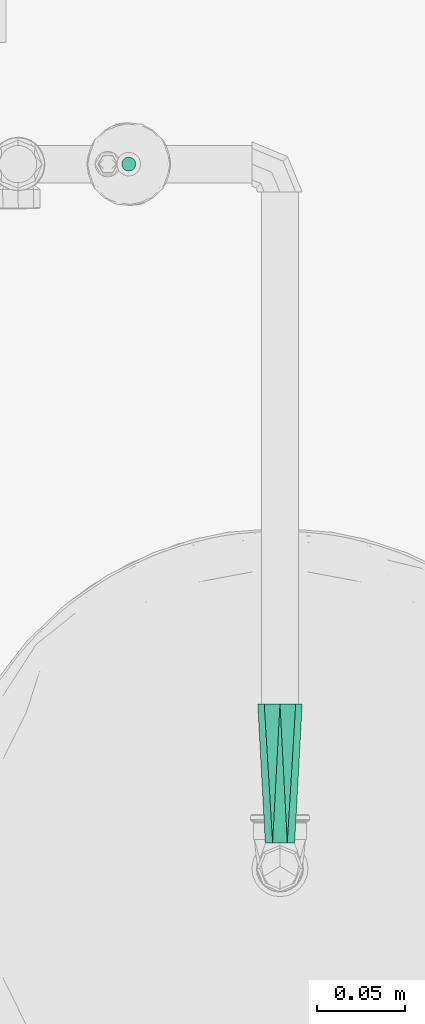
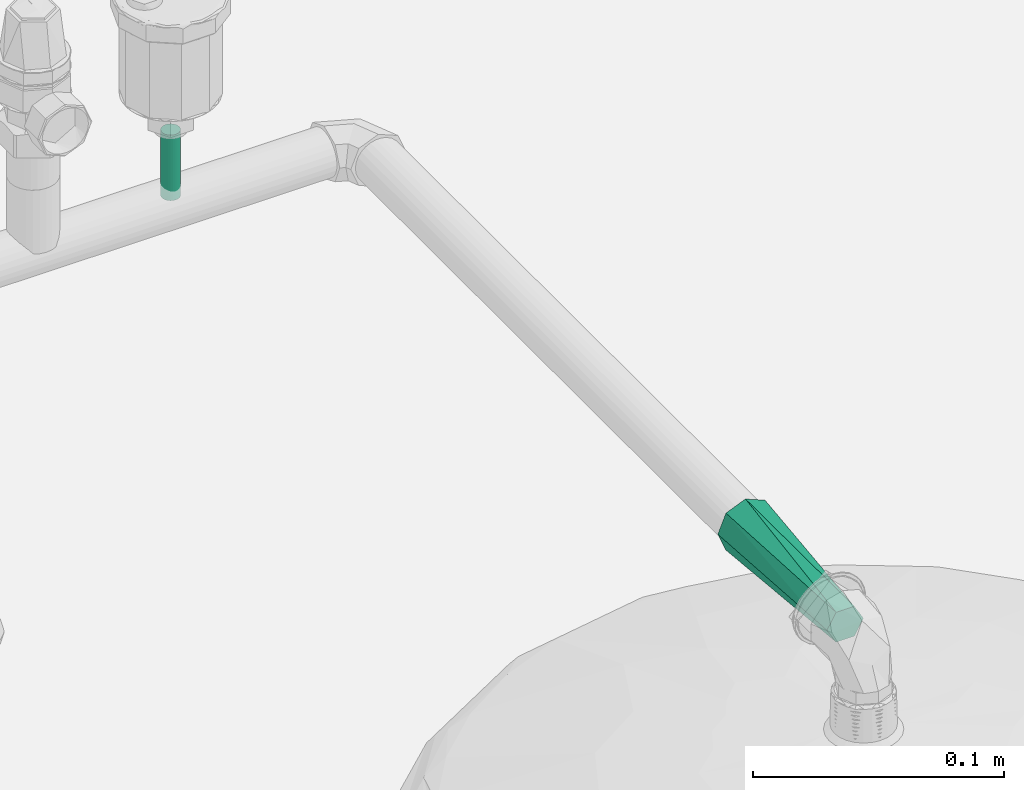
# One storey, part 38 of 43: 2 flow fittings.
"""IFC2X3 building model written with IfcOpenShell, lengths in millimetres."""

from ifc_helpers import new_model, entity, si_unit, converted_unit, derived_unit, direction, frame, origin, place, context, subcontext, project, spatial, faceted_brep, source, transform, mapped, material, type_object, type_shapes, element, save


model = new_model("IFC2X3")

# Units and contexts
model_context = context("Model", 3, precision=0.01, world=origin(), true_north=direction((6.123031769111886e-17, 1.0)))
body_context = subcontext(model_context, "Body", "Model", "MODEL_VIEW")
ifc_project = project(units=[si_unit("LENGTHUNIT", "METRE", prefix="MILLI"), si_unit("AREAUNIT", "SQUARE_METRE"), si_unit("VOLUMEUNIT", "CUBIC_METRE"), converted_unit("PLANEANGLEUNIT", "DEGREE", entity("IfcRatioMeasure", 0.017453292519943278), si_unit("PLANEANGLEUNIT", "RADIAN"), dimensions=[0, 0, 0, 0, 0, 0, 0]), si_unit("MASSUNIT", "GRAM", prefix="KILO"), derived_unit("MASSDENSITYUNIT", [(si_unit("MASSUNIT", "GRAM", prefix="KILO"), 1), (si_unit("LENGTHUNIT", "METRE"), -3)]), derived_unit("MOMENTOFINERTIAUNIT", [(si_unit("LENGTHUNIT", "METRE"), 4)]), si_unit("TIMEUNIT", "SECOND"), si_unit("FREQUENCYUNIT", "HERTZ"), si_unit("THERMODYNAMICTEMPERATUREUNIT", "DEGREE_CELSIUS"), derived_unit("THERMALTRANSMITTANCEUNIT", [(si_unit("MASSUNIT", "GRAM", prefix="KILO"), 1), (si_unit("THERMODYNAMICTEMPERATUREUNIT", "KELVIN"), -1), (si_unit("TIMEUNIT", "SECOND"), -3)]), derived_unit("VOLUMETRICFLOWRATEUNIT", [(si_unit("LENGTHUNIT", "METRE"), 3), (si_unit("TIMEUNIT", "SECOND"), -1)]), derived_unit("MASSFLOWRATEUNIT", [(si_unit("MASSUNIT", "GRAM", prefix="KILO"), 1), (si_unit("TIMEUNIT", "SECOND"), -1)]), derived_unit("ROTATIONALFREQUENCYUNIT", [(si_unit("TIMEUNIT", "SECOND"), -1)]), si_unit("ELECTRICCURRENTUNIT", "AMPERE"), si_unit("ELECTRICVOLTAGEUNIT", "VOLT"), si_unit("POWERUNIT", "WATT"), si_unit("FORCEUNIT", "NEWTON", prefix="KILO"), si_unit("ILLUMINANCEUNIT", "LUX"), si_unit("LUMINOUSFLUXUNIT", "LUMEN"), si_unit("LUMINOUSINTENSITYUNIT", "CANDELA"), derived_unit("USERDEFINED", [(si_unit("MASSUNIT", "GRAM", prefix="KILO"), -1), (si_unit("LENGTHUNIT", "METRE"), -2), (si_unit("TIMEUNIT", "SECOND"), 3), (si_unit("LUMINOUSFLUXUNIT", "LUMEN"), 1)]), derived_unit("SOUNDPOWERUNIT", [(si_unit("MASSUNIT", "GRAM", prefix="KILO"), 1), (si_unit("LENGTHUNIT", "METRE"), 2), (si_unit("TIMEUNIT", "SECOND"), -3)]), derived_unit("SOUNDPRESSUREUNIT", [(si_unit("MASSUNIT", "GRAM", prefix="KILO"), 1), (si_unit("LENGTHUNIT", "METRE"), -1), (si_unit("TIMEUNIT", "SECOND"), -2)]), derived_unit("LINEARVELOCITYUNIT", [(si_unit("LENGTHUNIT", "METRE"), 1), (si_unit("TIMEUNIT", "SECOND"), -1)]), si_unit("PRESSUREUNIT", "PASCAL"), derived_unit("USERDEFINED", [(si_unit("LENGTHUNIT", "METRE"), -2), (si_unit("MASSUNIT", "GRAM", prefix="KILO"), 1), (si_unit("TIMEUNIT", "SECOND"), -2)]), derived_unit("LINEARFORCEUNIT", [(si_unit("MASSUNIT", "GRAM", prefix="KILO"), 1), (si_unit("LENGTHUNIT", "METRE"), 1), (si_unit("TIMEUNIT", "SECOND"), -2), (si_unit("LENGTHUNIT", "METRE"), -1)]), derived_unit("PLANARFORCEUNIT", [(si_unit("MASSUNIT", "GRAM", prefix="KILO"), 1), (si_unit("LENGTHUNIT", "METRE"), 1), (si_unit("TIMEUNIT", "SECOND"), -2), (si_unit("LENGTHUNIT", "METRE"), -2)])], contexts=[model_context])

# Site, building, storey
site_placement = place(None, origin())
site = spatial("IfcSite", under=ifc_project, at=site_placement, Name="Default", CompositionType="ELEMENT")
building_placement = place(site_placement, origin())
building = spatial("IfcBuilding", under=site, at=building_placement, CompositionType="ELEMENT")
storey_placement = place(building_placement, frame((0.0, 0.0, 270.0)))
storey = spatial("IfcBuildingStorey", under=building, at=storey_placement, Name="Niveau 0", CompositionType="ELEMENT", Elevation=270.0)

# Flow fittings
ifc_material = material(Name="<Unnamed>")
pipe_fitting_type_1 = type_object("IfcPipeFittingType", Name="Transformation - Générique:Standard", PredefinedType="NOTDEFINED", material=ifc_material)
shared_shape_1 = source(origin(), body_context, "Body", "Brep", [
    faceted_brep([(79.44531250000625, -12.708984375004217, 0.0), (79.44531250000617, -8.986609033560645, -8.986609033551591), (79.44531250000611, 0.0, -12.70898437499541), (79.44531250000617, 8.986609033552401, -8.986609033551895), (79.44531250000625, 12.708984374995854, 0.0), (79.44531250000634, 8.986609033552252, 8.986609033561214), (79.4453125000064, 0.0, 12.708984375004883), (79.44531250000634, -8.986609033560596, 8.986609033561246), (0.0, 4.191992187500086, 7.260743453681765), (0.0, 8.383984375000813, 0.0), (0.0, 4.191992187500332, -7.260743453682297), (0.0, -4.191992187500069, -7.260743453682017), (0.0, -8.383984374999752, 0.0), (0.0, -4.191992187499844, 7.260743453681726)], [[[0, 1, 2, 3, 4, 5, 6, 7]], [[8, 9, 10, 11, 12, 13]], [[12, 11, 1]], [[1, 0, 12]], [[11, 2, 1]], [[10, 9, 3]], [[3, 2, 10]], [[4, 3, 9]], [[10, 2, 11]], [[9, 8, 5]], [[5, 4, 9]], [[8, 6, 5]], [[13, 12, 7]], [[7, 6, 13]], [[0, 7, 12]], [[13, 6, 8]]]),
])
type_shapes(pipe_fitting_type_1, [shared_shape_1])
flow_fitting_1_placement = place(storey_placement, frame((-1423.8770997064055, -9863.78712092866, 663.9355354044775), z_axis=(0.0, 0.0, 1.0), x_axis=(0.0, 1.0, 0.0)))
element("IfcFlowFitting", 1, at=flow_fitting_1_placement, inside=storey, type_object=pipe_fitting_type_1, material=ifc_material, Name="Transformation - Générique:Standard", ObjectType="Transformation - Générique:Standard", context=body_context, shape_type="MappedRepresentation", body=[
    mapped(shared_shape_1, transform((0.0, 0.0, 0.0), scale=1.0)),
])
pipe_fitting_type_2 = type_object("IfcPipeFittingType", Name="Piquage Acier Noir droit:Longueur = 25", PredefinedType="NOTDEFINED", material=ifc_material)
shared_shape_2 = source(origin(), body_context, "Body", "Brep", [
    faceted_brep([(-6.874297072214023, 1.035276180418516, -3.863703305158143), (-6.874297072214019, 0.0, -4.0), (-6.874297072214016, -1.0352761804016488, -3.8637033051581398), (-6.874297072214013, -2.0, -3.4641016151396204), (-6.87429707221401, -2.828427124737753, -2.828427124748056), (-6.8742970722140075, -3.4641016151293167, -2.0), (-6.874297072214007, -3.863703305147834, -1.0352761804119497), (-6.874297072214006, -4.0, 0.0), (-6.874297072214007, -3.863703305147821, 1.035276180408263), (-6.8742970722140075, -3.464101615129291, 2.0), (-6.87429707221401, -2.8284271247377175, 2.8284271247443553), (-6.874297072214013, -2.0, 3.464101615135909), (-6.874297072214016, -1.0352761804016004, 3.863703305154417), (-6.874297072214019, 0.0, 4.0), (-6.874297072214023, 1.0352761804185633, 3.8637033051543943), (-6.874297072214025, 2.0, 3.464101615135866), (-6.874297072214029, 2.8284271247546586, 2.828427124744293), (-6.874297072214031, 3.4641016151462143, 2.0), (-6.874297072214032, 3.863703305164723, 1.0352761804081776), (-6.874297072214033, 4.0, 0.0), (-6.874297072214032, 3.8637033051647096, -1.0352761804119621), (-6.874297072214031, 3.4641016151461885, -2.0), (-6.874297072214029, 2.828427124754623, -2.828427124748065), (-6.874297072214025, 2.0, -3.464101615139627), (0.0, 4.0, 0.0), (0.0, 3.863703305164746, 1.0352761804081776), (25.0, 3.8637033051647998, 1.0352761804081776), (25.0, 4.0, 0.0), (0.0, 3.4641016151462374, 2.0), (25.0, 3.464101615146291, 2.0), (0.0, 2.0, 3.464101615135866), (25.0, 2.0, 3.464101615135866), (25.0, 2.828427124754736, 2.828427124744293), (0.0, 2.8284271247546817, 2.828427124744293), (0.0, 1.0352761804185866, 3.8637033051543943), (25.0, 1.0352761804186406, 3.8637033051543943), (0.0, 0.0, 4.0), (25.0, 0.0, 4.0), (0.0, -1.035276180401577, 3.863703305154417), (0.0, -2.0, 3.464101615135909), (25.0, -2.0, 3.464101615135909), (25.0, -1.0352761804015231, 3.863703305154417), (0.0, -2.8284271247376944, 2.8284271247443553), (25.0, -2.8284271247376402, 2.8284271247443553), (0.0, -3.863703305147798, 1.035276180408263), (25.0, -3.8637033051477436, 1.035276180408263), (25.0, -3.464101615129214, 2.0), (0.0, -3.464101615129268, 2.0), (0.0, -4.0, 0.0), (25.0, -4.0, 0.0), (0.0, -3.8637033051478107, -1.0352761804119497), (25.0, -3.863703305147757, -1.0352761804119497), (0.0, -3.464101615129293, -2.0), (25.0, -3.4641016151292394, -2.0), (0.0, -2.0, -3.4641016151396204), (25.0, -2.0, -3.4641016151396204), (25.0, -2.8284271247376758, -2.828427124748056), (0.0, -2.82842712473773, -2.828427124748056), (0.0, -1.0352761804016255, -3.8637033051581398), (25.0, -1.0352761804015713, -3.8637033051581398), (0.0, 0.0, -4.0), (25.0, 0.0, -4.0), (0.0, 1.035276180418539, -3.863703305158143), (0.0, 2.0, -3.464101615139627), (25.0, 2.0, -3.464101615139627), (25.0, 1.0352761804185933, -3.863703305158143), (0.0, 2.828427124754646, -2.828427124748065), (25.0, 2.8284271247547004, -2.828427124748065), (0.0, 3.8637033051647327, -1.0352761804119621), (25.0, 3.863703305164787, -1.0352761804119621), (25.0, 3.464101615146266, -2.0), (0.0, 3.464101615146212, -2.0)], [[[0, 1, 2, 3, 4, 5, 6, 7, 8, 9, 10, 11, 12, 13, 14, 15, 16, 17, 18, 19, 20, 21, 22, 23]], [[24, 19, 18, 25, 26, 27]], [[25, 18, 17, 28, 29, 26]], [[30, 31, 32, 33, 16, 15]], [[17, 16, 33, 32, 29, 28]], [[34, 35, 31, 30, 15, 14]], [[13, 36, 37, 35, 34, 14]], [[38, 12, 11, 39, 40, 41]], [[39, 11, 10, 42, 43, 40]], [[44, 45, 46, 47, 9, 8]], [[10, 9, 47, 46, 43, 42]], [[48, 49, 45, 44, 8, 7]], [[38, 41, 37, 36, 13, 12]], [[48, 7, 6, 50, 51, 49]], [[50, 6, 5, 52, 53, 51]], [[54, 55, 56, 57, 4, 3]], [[5, 4, 57, 56, 53, 52]], [[58, 59, 55, 54, 3, 2]], [[1, 60, 61, 59, 58, 2]], [[62, 0, 23, 63, 64, 65]], [[63, 23, 22, 66, 67, 64]], [[68, 69, 70, 71, 21, 20]], [[22, 21, 71, 70, 67, 66]], [[24, 27, 69, 68, 20, 19]], [[62, 65, 61, 60, 1, 0]], [[55, 59, 61, 65, 64, 67, 70, 69, 27, 26, 29, 32, 31, 35, 37, 41, 40, 43, 46, 45, 49, 51, 53, 56]]]),
])
type_shapes(pipe_fitting_type_2, [shared_shape_2])
flow_fitting_2_placement = place(storey_placement, frame((-1510.2354860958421, -9476.090171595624, 674.6035354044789), z_axis=(1.0, 0.0, 0.0), x_axis=(0.0, 0.0, 1.0)))
element("IfcFlowFitting", 2, at=flow_fitting_2_placement, inside=storey, type_object=pipe_fitting_type_2, material=ifc_material, Name="Piquage Acier Noir droit:Longueur = 25", ObjectType="Piquage Acier Noir droit:Longueur = 25", context=body_context, shape_type="MappedRepresentation", body=[
    mapped(shared_shape_2, transform((0.0, 0.0, 0.0), scale=1.0)),
])

save(model, "model.ifc")
